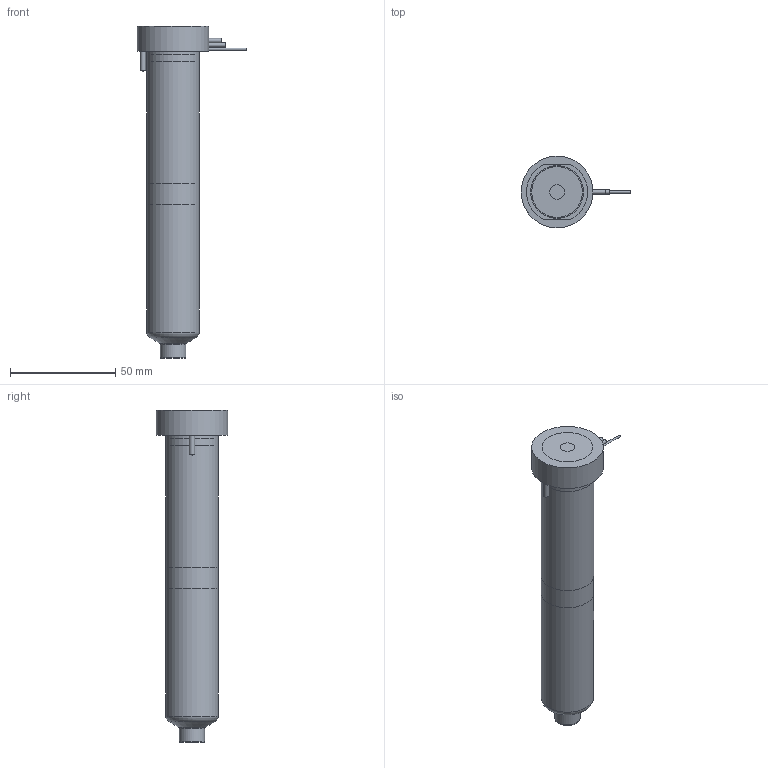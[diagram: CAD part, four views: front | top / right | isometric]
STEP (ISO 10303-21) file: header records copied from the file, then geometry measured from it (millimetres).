
FILE_DESCRIPTION(/* description */ (''),/* implementation_level */ '2;1');
FILE_NAME(/* name */ 'MXTVBE-MXIVBE-MXOVBE16145_200C_b',/* time_stamp */ '2007-01-18T09:55:37+13:00',/* author */ (''),/* organization */ (''),/* preprocessor_version */ 'ST-DEVELOPER v9',/* originating_system */ 'UGS - NX 4.0',/* authorisation */ '');
FILE_SCHEMA (('CONFIG_CONTROL_DESIGN'));
Length unit declared in the file: millimetre
Products named in the file (1): MXTVBE-MXIVBE-MXOVBE16145_200C_b
Bounding box: 51.95 x 34 x 157.38 mm (x, y, z)
Volume: 137884.1 mm3; surface area: 28512.7 mm2
Topology: 7 solids, 7 shells, 79 faces, 149 edges, 96 vertices
Faces by surface type: plane 35, cylinder 27, cone 9, torus 7, bspline 1
Full cylindrical faces by diameter (mm): 1 x3, 2 x2, 2.5 x3, 7 x1, 11.61 x1, 12.01 x2, 14.8 x1, 20.8 x1, 24.9 x2, 25 x2, 34 x1
Entity records: 1902 total; most frequent: CARTESIAN_POINT 375, DIRECTION 326, ORIENTED_EDGE 214, AXIS2_PLACEMENT_3D 150, EDGE_LOOP 124, EDGE_CURVE 107, VERTEX_POINT 88, ADVANCED_FACE 79
